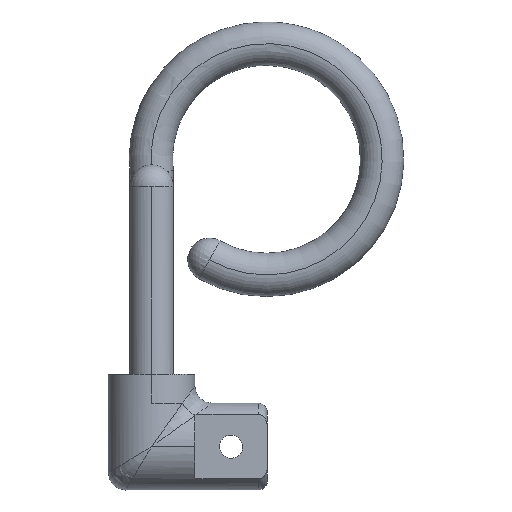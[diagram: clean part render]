
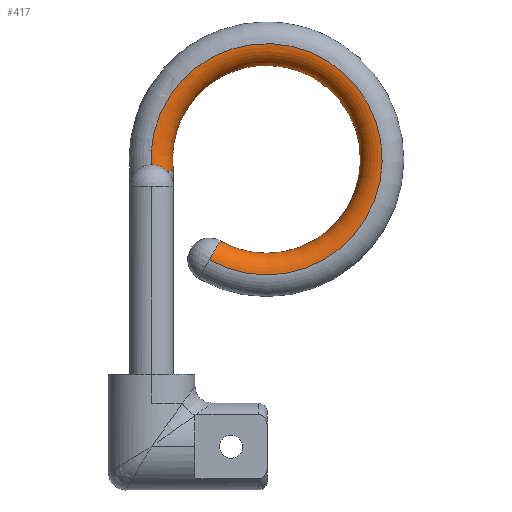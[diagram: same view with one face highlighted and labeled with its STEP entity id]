
A CAD part, left-side view. The second image highlights one B-rep face of the part: STEP entity #417.
In plain terms, the highlighted toroidal (fillet/blend) face has major radius 40 mm and minor radius 7.5 mm.
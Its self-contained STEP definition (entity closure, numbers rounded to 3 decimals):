
#101=CARTESIAN_POINT('Vertex',(-16.66,-7.5,104.58)) ;
#124=CARTESIAN_POINT('Vertex',(-16.402,-6.479,106.596)) ;
#128=CARTESIAN_POINT('Control Point',(-16.66,-7.5,104.58)) ;
#129=CARTESIAN_POINT('Control Point',(-16.578,-7.5,105.157)) ;
#130=CARTESIAN_POINT('Control Point',(-16.467,-7.324,105.739)) ;
#131=CARTESIAN_POINT('Control Point',(-16.402,-6.958,106.245)) ;
#132=CARTESIAN_POINT('Control Point',(-16.402,-6.479,106.596)) ;
#144=CARTESIAN_POINT('Control Point',(-16.66,-7.5,104.58)) ;
#145=CARTESIAN_POINT('Control Point',(-16.716,-7.5,104.188)) ;
#146=CARTESIAN_POINT('Control Point',(-16.762,-7.423,103.797)) ;
#147=CARTESIAN_POINT('Control Point',(-16.782,-7.27,103.425)) ;
#148=CARTESIAN_POINT('Control Point',(-16.765,-6.909,102.886)) ;
#149=CARTESIAN_POINT('Control Point',(-16.689,-6.404,102.49)) ;
#150=CARTESIAN_POINT('Control Point',(-16.653,-6.191,102.362)) ;
#151=CARTESIAN_POINT('Control Point',(-16.558,-5.642,102.117)) ;
#152=CARTESIAN_POINT('Control Point',(-16.466,-5.033,102.042)) ;
#153=CARTESIAN_POINT('Control Point',(-16.423,-4.668,102.063)) ;
#154=CARTESIAN_POINT('Control Point',(-16.402,-4.312,102.15)) ;
#155=CARTESIAN_POINT('Control Point',(-16.402,-3.983,102.297)) ;
#156=CARTESIAN_POINT('Vertex',(-16.402,-3.983,102.297)) ;
#175=CARTESIAN_POINT('Axis2P3D Location',(-23.902,-39.757,84.402)) ;
#180=CARTESIAN_POINT('Axis2P3D Location',(-16.402,-39.757,84.402)) ;
#184=CARTESIAN_POINT('Vertex',(-16.402,0.,80.)) ;
#209=CARTESIAN_POINT('Vertex',(-31.402,0.,80.)) ;
#212=CARTESIAN_POINT('Axis2P3D Location',(-31.402,-39.757,84.402)) ;
#216=CARTESIAN_POINT('Vertex',(-31.402,-20.,49.622)) ;
#230=CARTESIAN_POINT('Vertex',(-16.402,-20.,49.622)) ;
#233=CARTESIAN_POINT('Axis2P3D Location',(-16.402,-39.757,84.402)) ;
#237=CARTESIAN_POINT('Vertex',(-16.402,-56.314,120.814)) ;
#323=CARTESIAN_POINT('Vertex',(-16.402,-23.2,120.814)) ;
#326=CARTESIAN_POINT('Axis2P3D Location',(-16.402,-39.757,84.402)) ;
#351=CARTESIAN_POINT('Control Point',(-16.402,-23.2,120.814)) ;
#352=CARTESIAN_POINT('Control Point',(-16.402,-25.285,120.814)) ;
#353=CARTESIAN_POINT('Control Point',(-16.526,-27.346,120.814)) ;
#354=CARTESIAN_POINT('Control Point',(-16.705,-29.374,120.814)) ;
#355=CARTESIAN_POINT('Control Point',(-16.995,-32.523,120.814)) ;
#356=CARTESIAN_POINT('Control Point',(-17.205,-35.644,120.814)) ;
#357=CARTESIAN_POINT('Control Point',(-17.263,-36.77,120.814)) ;
#358=CARTESIAN_POINT('Control Point',(-17.362,-39.873,120.814)) ;
#359=CARTESIAN_POINT('Control Point',(-17.282,-42.972,120.814)) ;
#360=CARTESIAN_POINT('Control Point',(-17.153,-44.949,120.814)) ;
#361=CARTESIAN_POINT('Control Point',(-16.857,-48.373,120.814)) ;
#362=CARTESIAN_POINT('Control Point',(-16.569,-51.852,120.814)) ;
#363=CARTESIAN_POINT('Control Point',(-16.466,-53.325,120.814)) ;
#364=CARTESIAN_POINT('Control Point',(-16.402,-54.813,120.814)) ;
#365=CARTESIAN_POINT('Control Point',(-16.402,-56.314,120.814)) ;
#367=CARTESIAN_POINT('Axis2P3D Location',(-23.902,-20.,49.622)) ;
#371=CARTESIAN_POINT('Vertex',(-23.902,-23.704,56.143)) ;
#374=CARTESIAN_POINT('Axis2P3D Location',(-23.902,-20.,49.622)) ;
#380=CARTESIAN_POINT('Control Point',(-31.402,0.,80.)) ;
#381=CARTESIAN_POINT('Control Point',(-31.402,-0.38,80.021)) ;
#382=CARTESIAN_POINT('Control Point',(-31.378,-0.76,80.042)) ;
#383=CARTESIAN_POINT('Control Point',(-31.327,-1.254,80.069)) ;
#384=CARTESIAN_POINT('Control Point',(-31.083,-2.333,80.13)) ;
#385=CARTESIAN_POINT('Control Point',(-30.646,-3.35,80.189)) ;
#386=CARTESIAN_POINT('Control Point',(-30.397,-3.779,80.214)) ;
#387=CARTESIAN_POINT('Control Point',(-29.35,-5.431,80.31)) ;
#388=CARTESIAN_POINT('Control Point',(-27.788,-6.71,80.387)) ;
#389=CARTESIAN_POINT('Control Point',(-26.287,-7.379,80.428)) ;
#390=CARTESIAN_POINT('Control Point',(-23.788,-7.76,80.451)) ;
#391=CARTESIAN_POINT('Control Point',(-21.394,-7.149,80.414)) ;
#392=CARTESIAN_POINT('Control Point',(-20.579,-6.809,80.393)) ;
#393=CARTESIAN_POINT('Control Point',(-19.017,-5.869,80.336)) ;
#394=CARTESIAN_POINT('Control Point',(-17.8,-4.51,80.256)) ;
#395=CARTESIAN_POINT('Control Point',(-17.284,-3.713,80.209)) ;
#396=CARTESIAN_POINT('Control Point',(-16.838,-2.705,80.152)) ;
#397=CARTESIAN_POINT('Control Point',(-16.582,-1.646,80.092)) ;
#398=CARTESIAN_POINT('Control Point',(-16.536,-1.443,80.08)) ;
#399=CARTESIAN_POINT('Control Point',(-16.458,-0.985,80.055)) ;
#400=CARTESIAN_POINT('Control Point',(-16.415,-0.521,80.029)) ;
#401=CARTESIAN_POINT('Control Point',(-16.406,-0.314,80.017)) ;
#402=CARTESIAN_POINT('Control Point',(-16.402,-0.157,80.009)) ;
#403=CARTESIAN_POINT('Control Point',(-16.402,0.,80.)) ;
#176=DIRECTION('Axis2P3D Direction',(1.,-0.,0.)) ;
#177=DIRECTION('Axis2P3D XDirection',(0.,0.992,-0.124)) ;
#181=DIRECTION('Axis2P3D Direction',(1.,-0.,0.)) ;
#213=DIRECTION('Axis2P3D Direction',(1.,-0.,0.)) ;
#234=DIRECTION('Axis2P3D Direction',(1.,-0.,0.)) ;
#327=DIRECTION('Axis2P3D Direction',(1.,-0.,0.)) ;
#368=DIRECTION('Axis2P3D Direction',(0.,-0.87,-0.494)) ;
#375=DIRECTION('Axis2P3D Direction',(0.,-0.87,-0.494)) ;
#178=AXIS2_PLACEMENT_3D('Torus Axis2P3D',#175,#176,#177) ;
#182=AXIS2_PLACEMENT_3D('Circle Axis2P3D',#180,#181,$) ;
#214=AXIS2_PLACEMENT_3D('Circle Axis2P3D',#212,#213,$) ;
#235=AXIS2_PLACEMENT_3D('Circle Axis2P3D',#233,#234,$) ;
#328=AXIS2_PLACEMENT_3D('Circle Axis2P3D',#326,#327,$) ;
#369=AXIS2_PLACEMENT_3D('Circle Axis2P3D',#367,#368,$) ;
#376=AXIS2_PLACEMENT_3D('Circle Axis2P3D',#374,#375,$) ;
#406=ORIENTED_EDGE('',*,*,#330,.T.) ;
#407=ORIENTED_EDGE('',*,*,#366,.T.) ;
#408=ORIENTED_EDGE('',*,*,#239,.T.) ;
#409=ORIENTED_EDGE('',*,*,#373,.F.) ;
#410=ORIENTED_EDGE('',*,*,#378,.F.) ;
#411=ORIENTED_EDGE('',*,*,#218,.F.) ;
#412=ORIENTED_EDGE('',*,*,#404,.T.) ;
#413=ORIENTED_EDGE('',*,*,#186,.T.) ;
#414=ORIENTED_EDGE('',*,*,#158,.F.) ;
#415=ORIENTED_EDGE('',*,*,#133,.T.) ;
#417=ADVANCED_FACE('PartBody',(#416),#179,.T.) ;
#127=B_SPLINE_CURVE_WITH_KNOTS('',4,(#128,#129,#130,#131,#132),.UNSPECIFIED.,.F.,.U.,(5,5),(0.,3.357),.UNSPECIFIED.) ;
#143=B_SPLINE_CURVE_WITH_KNOTS('',5,(#144,#145,#146,#147,#148,#149,#150,#151,#152,#153,#154,#155),.UNSPECIFIED.,.F.,.U.,(6,3,3,6),(0.,2.855,4.644,7.191),.UNSPECIFIED.) ;
#350=B_SPLINE_CURVE_WITH_KNOTS('',5,(#351,#352,#353,#354,#355,#356,#357,#358,#359,#360,#361,#362,#363,#364,#365),.UNSPECIFIED.,.F.,.U.,(6,3,3,3,6),(0.,14.739,23.098,37.771,48.38),.UNSPECIFIED.) ;
#379=B_SPLINE_CURVE_WITH_KNOTS('',5,(#380,#381,#382,#383,#384,#385,#386,#387,#388,#389,#390,#391,#392,#393,#394,#395,#396,#397,#398,#399,#400,#401,#402,#403),.UNSPECIFIED.,.F.,.U.,(6,3,3,3,3,3,3,6),(34.666,37.358,40.051,51.179,57.339,63.942,65.053,66.164),.UNSPECIFIED.) ;
#183=CIRCLE('generated circle',#182,40.) ;
#215=CIRCLE('generated circle',#214,40.) ;
#236=CIRCLE('generated circle',#235,40.) ;
#329=CIRCLE('generated circle',#328,40.) ;
#370=CIRCLE('generated circle',#369,7.5) ;
#377=CIRCLE('generated circle',#376,7.5) ;
#179=TOROIDAL_SURFACE('homeo Torus',#178,40.,7.5) ;
#133=EDGE_CURVE('',#102,#125,#127,.T.) ;
#158=EDGE_CURVE('',#102,#157,#143,.T.) ;
#186=EDGE_CURVE('',#185,#157,#183,.T.) ;
#218=EDGE_CURVE('',#210,#217,#215,.T.) ;
#239=EDGE_CURVE('',#238,#231,#236,.T.) ;
#330=EDGE_CURVE('',#125,#324,#329,.T.) ;
#366=EDGE_CURVE('',#324,#238,#350,.T.) ;
#373=EDGE_CURVE('',#372,#231,#370,.F.) ;
#378=EDGE_CURVE('',#217,#372,#377,.F.) ;
#404=EDGE_CURVE('',#210,#185,#379,.T.) ;
#405=EDGE_LOOP('',(#406,#407,#408,#409,#410,#411,#412,#413,#414,#415)) ;
#416=FACE_OUTER_BOUND('',#405,.T.) ;
#102=VERTEX_POINT('',#101) ;
#125=VERTEX_POINT('',#124) ;
#157=VERTEX_POINT('',#156) ;
#185=VERTEX_POINT('',#184) ;
#210=VERTEX_POINT('',#209) ;
#217=VERTEX_POINT('',#216) ;
#231=VERTEX_POINT('',#230) ;
#238=VERTEX_POINT('',#237) ;
#324=VERTEX_POINT('',#323) ;
#372=VERTEX_POINT('',#371) ;
